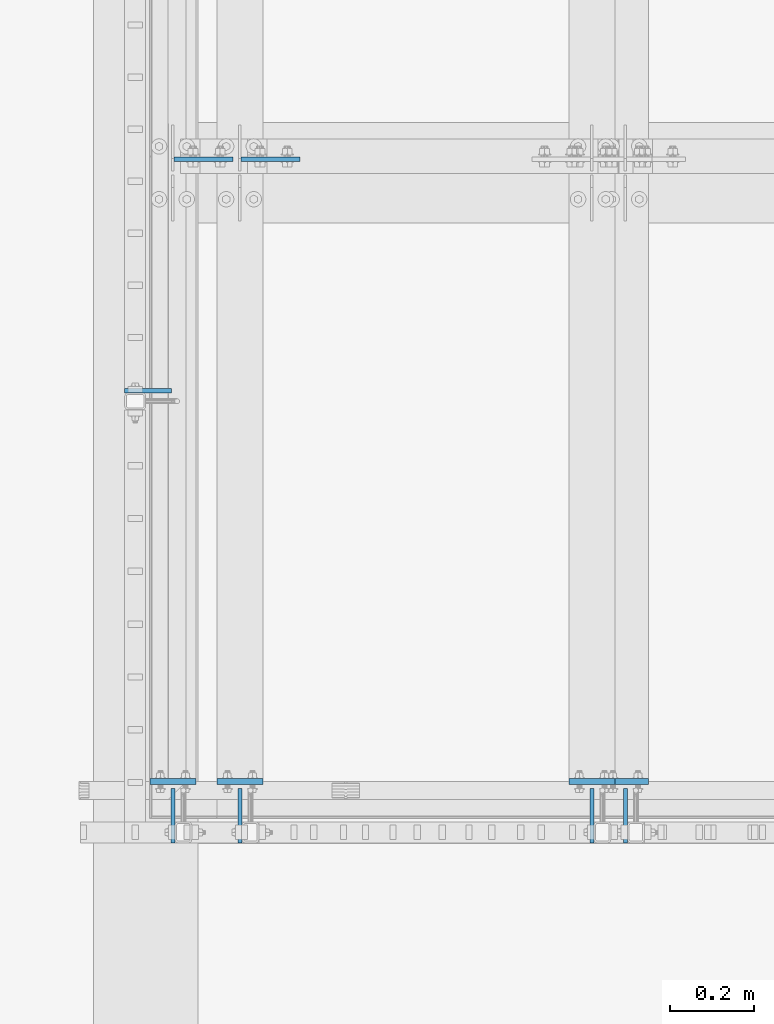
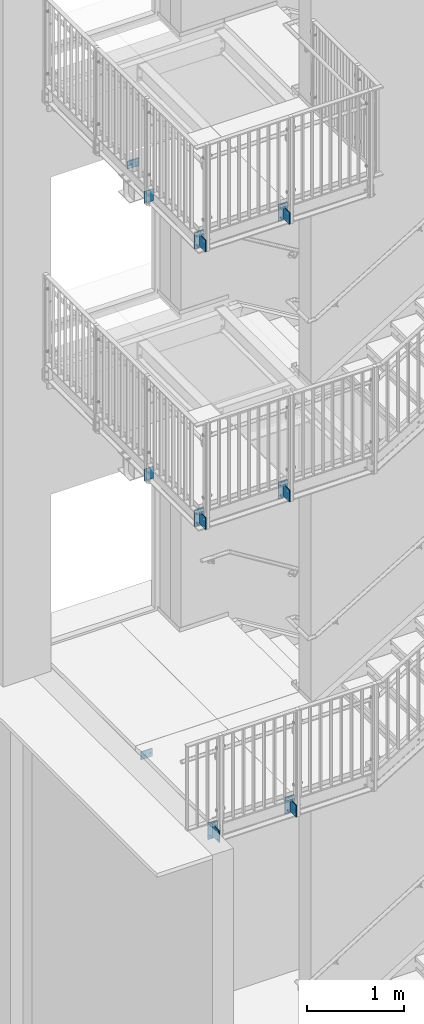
# One storey, part 50 of 410: 16 plates, 68 openings.
"""IFC2X3 building model written with IfcOpenShell, lengths in millimetres."""

from ifc_helpers import new_model, entity, si_unit, converted_unit, frame, frame_2d, origin, origin_with_axes, origin_2d_with_axis, place, context, project, spatial, polyline, circle, outline, extrude, material, layer, layer_set, element, save


model = new_model("IFC2X3")

# Units and contexts
model_context = context("Model", 3, precision=1e-09, world=origin_with_axes())
ifc_project = project(units=[si_unit("LENGTHUNIT", "METRE", prefix="MILLI"), si_unit("AREAUNIT", "SQUARE_METRE"), si_unit("VOLUMEUNIT", "CUBIC_METRE"), converted_unit("PLANEANGLEUNIT", "DEGREE", entity("IfcPlaneAngleMeasure", 0.01745329), si_unit("PLANEANGLEUNIT", "RADIAN"), dimensions=[0, 0, 0, 0, 0, 0, 0])], contexts=[model_context])

# Site, building, storey
site_placement = place(None, origin_with_axes())
site = spatial("IfcSite", under=ifc_project, at=site_placement, Name="mKR Teilneubau & Sanierung BA1 - Ostfildern", CompositionType="ELEMENT")
building_placement = place(site_placement, origin_with_axes())
building = spatial("IfcBuilding", under=site, at=building_placement, Name="Struktur 1", CompositionType="ELEMENT")
storey_placement = place(building_placement, origin_with_axes())
storey = spatial("IfcBuildingStorey", under=building, at=storey_placement, Name="Default Storey", CompositionType="ELEMENT", Elevation=0.0)

# Plate, openings
ifc_material = material(Name="S235JR")
ifc_layer_1 = layer(ifc_material, 15.0)
ifc_layer_set_1 = layer_set([ifc_layer_1], Name="S235JR")
plate_1_placement = place(None, frame((-3809.9985317, 15534.999999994, 3830.0), z_axis=(0.0, -1.0, 0.0), x_axis=(1.0, 0.0, 0.0)))
plate_1 = element("IfcPlate", 1, at=plate_1_placement, inside=storey, material=ifc_layer_set_1, Name="-", ObjectType="-", context=model_context, shape_type="SweptSolid", body=[
    extrude(outline(polyline([(-55.0, -105.0), (55.0, -105.0), (55.0, 105.0), (-55.0, 105.0), (-55.0, -105.0)])), origin_with_axes(), (0.0, 0.0, 1.0), 15.0),
])
opening_1_placement = place(plate_1_placement, frame((2.9e-08, 1.5e-08, -0.5), z_axis=(0.0, 0.0, 1.0), x_axis=(1.0, 0.0, 0.0)))
element("IfcOpeningElement", 2, at=opening_1_placement, cuts=plate_1, ObjectType="Opening", context=model_context, shape_type="SweptSolid", body=[
    extrude(circle(Radius=7.001, at=frame_2d((30.0, 60.0), x_axis=(1.0, 0.0))), origin(), (0.0, 0.0, 1.0), 16.0),
])
opening_2_placement = place(plate_1_placement, frame((2.9e-08, 1.5e-08, -0.5), z_axis=(0.0, 0.0, 1.0), x_axis=(1.0, 0.0, 0.0)))
element("IfcOpeningElement", 3, at=opening_2_placement, cuts=plate_1, ObjectType="Opening", context=model_context, shape_type="SweptSolid", body=[
    extrude(circle(Radius=7.001, at=frame_2d((-30.0, 60.0), x_axis=(1.0, 0.0))), origin(), (0.0, 0.0, 1.0), 16.0),
])
opening_3_placement = place(plate_1_placement, frame((2.9e-08, 1.5e-08, -0.5), z_axis=(0.0, 0.0, 1.0), x_axis=(1.0, 0.0, 0.0)))
element("IfcOpeningElement", 4, at=opening_3_placement, cuts=plate_1, ObjectType="Opening", context=model_context, shape_type="SweptSolid", body=[
    extrude(circle(Radius=7.001, at=frame_2d((30.0, -60.0), x_axis=(1.0, 0.0))), origin(), (0.0, 0.0, 1.0), 16.0),
])
opening_4_placement = place(plate_1_placement, frame((2.9e-08, 1.5e-08, -0.5), z_axis=(0.0, 0.0, 1.0), x_axis=(1.0, 0.0, 0.0)))
element("IfcOpeningElement", 5, at=opening_4_placement, cuts=plate_1, ObjectType="Opening", context=model_context, shape_type="SweptSolid", body=[
    extrude(circle(Radius=7.001, at=frame_2d((-30.0, -60.0), x_axis=(1.0, 0.0))), origin(), (0.0, 0.0, 1.0), 16.0),
])
opening_5_placement = place(plate_1_placement, frame((14.95, 88.8, 15.5), z_axis=(0.0, 0.0, -1.0), x_axis=(0.0, 1.0, 0.0)))
element("IfcOpeningElement", 6, at=opening_5_placement, cuts=plate_1, ObjectType="Opening", context=model_context, shape_type="SweptSolid", body=[
    extrude(circle(Radius=6.001, at=origin_2d_with_axis()), origin(), (0.0, 0.0, 1.0), 16.0),
])
opening_6_placement = place(plate_1_placement, frame((14.95, -88.8, 15.5), z_axis=(0.0, 0.0, -1.0), x_axis=(0.0, 1.0, 0.0)))
element("IfcOpeningElement", 7, at=opening_6_placement, cuts=plate_1, ObjectType="Opening", context=model_context, shape_type="SweptSolid", body=[
    extrude(circle(Radius=6.001, at=origin_2d_with_axis()), origin(), (0.0, 0.0, 1.0), 16.0),
])
opening_7_placement = place(plate_1_placement, frame((-14.95, -88.8, 15.5), z_axis=(0.0, 0.0, -1.0), x_axis=(0.0, 1.0, 0.0)))
element("IfcOpeningElement", 8, at=opening_7_placement, cuts=plate_1, ObjectType="Opening", context=model_context, shape_type="SweptSolid", body=[
    extrude(circle(Radius=6.001, at=origin_2d_with_axis()), origin(), (0.0, 0.0, 1.0), 16.0),
])
opening_8_placement = place(plate_1_placement, frame((-14.95, 88.8, 15.5), z_axis=(0.0, 0.0, -1.0), x_axis=(0.0, 1.0, 0.0)))
element("IfcOpeningElement", 9, at=opening_8_placement, cuts=plate_1, ObjectType="Opening", context=model_context, shape_type="SweptSolid", body=[
    extrude(circle(Radius=6.001, at=origin_2d_with_axis()), origin(), (0.0, 0.0, 1.0), 16.0),
])

plate_2_placement = place(None, frame((-3809.9985317, 15534.999999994, 7330.0), z_axis=(0.0, -1.0, 0.0), x_axis=(1.0, 0.0, 0.0)))
plate_2 = element("IfcPlate", 10, at=plate_2_placement, inside=storey, material=ifc_layer_set_1, Name="-", ObjectType="-", context=model_context, shape_type="SweptSolid", body=[
    extrude(outline(polyline([(-55.0, -105.0), (55.0, -105.0), (55.0, 105.0), (-55.0, 105.0), (-55.0, -105.0)])), origin_with_axes(), (0.0, 0.0, 1.0), 15.0),
])
opening_9_placement = place(plate_2_placement, frame((2.9e-08, 1.5e-08, -0.5), z_axis=(0.0, 0.0, 1.0), x_axis=(1.0, 0.0, 0.0)))
element("IfcOpeningElement", 11, at=opening_9_placement, cuts=plate_2, ObjectType="Opening", context=model_context, shape_type="SweptSolid", body=[
    extrude(circle(Radius=7.001, at=frame_2d((30.0, 60.0), x_axis=(1.0, 0.0))), origin(), (0.0, 0.0, 1.0), 16.0),
])
opening_10_placement = place(plate_2_placement, frame((2.9e-08, 1.5e-08, -0.5), z_axis=(0.0, 0.0, 1.0), x_axis=(1.0, 0.0, 0.0)))
element("IfcOpeningElement", 12, at=opening_10_placement, cuts=plate_2, ObjectType="Opening", context=model_context, shape_type="SweptSolid", body=[
    extrude(circle(Radius=7.001, at=frame_2d((-30.0, 60.0), x_axis=(1.0, 0.0))), origin(), (0.0, 0.0, 1.0), 16.0),
])
opening_11_placement = place(plate_2_placement, frame((2.9e-08, 1.5e-08, -0.5), z_axis=(0.0, 0.0, 1.0), x_axis=(1.0, 0.0, 0.0)))
element("IfcOpeningElement", 13, at=opening_11_placement, cuts=plate_2, ObjectType="Opening", context=model_context, shape_type="SweptSolid", body=[
    extrude(circle(Radius=7.001, at=frame_2d((30.0, -60.0), x_axis=(1.0, 0.0))), origin(), (0.0, 0.0, 1.0), 16.0),
])
opening_12_placement = place(plate_2_placement, frame((2.9e-08, 1.5e-08, -0.5), z_axis=(0.0, 0.0, 1.0), x_axis=(1.0, 0.0, 0.0)))
element("IfcOpeningElement", 14, at=opening_12_placement, cuts=plate_2, ObjectType="Opening", context=model_context, shape_type="SweptSolid", body=[
    extrude(circle(Radius=7.001, at=frame_2d((-30.0, -60.0), x_axis=(1.0, 0.0))), origin(), (0.0, 0.0, 1.0), 16.0),
])
opening_13_placement = place(plate_2_placement, frame((14.95, 88.8, 15.5), z_axis=(0.0, 0.0, -1.0), x_axis=(0.0, 1.0, 0.0)))
element("IfcOpeningElement", 15, at=opening_13_placement, cuts=plate_2, ObjectType="Opening", context=model_context, shape_type="SweptSolid", body=[
    extrude(circle(Radius=6.001, at=origin_2d_with_axis()), origin(), (0.0, 0.0, 1.0), 16.0),
])
opening_14_placement = place(plate_2_placement, frame((14.95, -88.8, 15.5), z_axis=(0.0, 0.0, -1.0), x_axis=(0.0, 1.0, 0.0)))
element("IfcOpeningElement", 16, at=opening_14_placement, cuts=plate_2, ObjectType="Opening", context=model_context, shape_type="SweptSolid", body=[
    extrude(circle(Radius=6.001, at=origin_2d_with_axis()), origin(), (0.0, 0.0, 1.0), 16.0),
])
opening_15_placement = place(plate_2_placement, frame((-14.95, -88.8, 15.5), z_axis=(0.0, 0.0, -1.0), x_axis=(0.0, 1.0, 0.0)))
element("IfcOpeningElement", 17, at=opening_15_placement, cuts=plate_2, ObjectType="Opening", context=model_context, shape_type="SweptSolid", body=[
    extrude(circle(Radius=6.001, at=origin_2d_with_axis()), origin(), (0.0, 0.0, 1.0), 16.0),
])
opening_16_placement = place(plate_2_placement, frame((-14.95, 88.8, 15.5), z_axis=(0.0, 0.0, -1.0), x_axis=(0.0, 1.0, 0.0)))
element("IfcOpeningElement", 18, at=opening_16_placement, cuts=plate_2, ObjectType="Opening", context=model_context, shape_type="SweptSolid", body=[
    extrude(circle(Radius=6.001, at=origin_2d_with_axis()), origin(), (0.0, 0.0, 1.0), 16.0),
])

plate_3_placement = place(None, frame((-3649.9985317, 15534.999999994, -170.0), z_axis=(0.0, -1.0, 0.0), x_axis=(1.0, 0.0, 0.0)))
plate_3 = element("IfcPlate", 19, at=plate_3_placement, inside=storey, material=ifc_layer_set_1, Name="-", ObjectType="-", context=model_context, shape_type="SweptSolid", body=[
    extrude(outline(polyline([(-55.0, -105.0), (55.0, -105.0), (55.0, 105.0), (-55.0, 105.0), (-55.0, -105.0)])), origin_with_axes(), (0.0, 0.0, 1.0), 15.0),
])
opening_17_placement = place(plate_3_placement, frame((2.9e-08, 1.5e-08, -0.5), z_axis=(0.0, 0.0, 1.0), x_axis=(1.0, 0.0, 0.0)))
element("IfcOpeningElement", 20, at=opening_17_placement, cuts=plate_3, ObjectType="Opening", context=model_context, shape_type="SweptSolid", body=[
    extrude(circle(Radius=7.001, at=frame_2d((30.0, 60.0), x_axis=(1.0, 0.0))), origin(), (0.0, 0.0, 1.0), 16.0),
])
opening_18_placement = place(plate_3_placement, frame((2.9e-08, 1.5e-08, -0.5), z_axis=(0.0, 0.0, 1.0), x_axis=(1.0, 0.0, 0.0)))
element("IfcOpeningElement", 21, at=opening_18_placement, cuts=plate_3, ObjectType="Opening", context=model_context, shape_type="SweptSolid", body=[
    extrude(circle(Radius=7.001, at=frame_2d((-30.0, 60.0), x_axis=(1.0, 0.0))), origin(), (0.0, 0.0, 1.0), 16.0),
])
opening_19_placement = place(plate_3_placement, frame((2.9e-08, 1.5e-08, -0.5), z_axis=(0.0, 0.0, 1.0), x_axis=(1.0, 0.0, 0.0)))
element("IfcOpeningElement", 22, at=opening_19_placement, cuts=plate_3, ObjectType="Opening", context=model_context, shape_type="SweptSolid", body=[
    extrude(circle(Radius=7.001, at=frame_2d((30.0, -60.0), x_axis=(1.0, 0.0))), origin(), (0.0, 0.0, 1.0), 16.0),
])
opening_20_placement = place(plate_3_placement, frame((2.9e-08, 1.5e-08, -0.5), z_axis=(0.0, 0.0, 1.0), x_axis=(1.0, 0.0, 0.0)))
element("IfcOpeningElement", 23, at=opening_20_placement, cuts=plate_3, ObjectType="Opening", context=model_context, shape_type="SweptSolid", body=[
    extrude(circle(Radius=7.001, at=frame_2d((-30.0, -60.0), x_axis=(1.0, 0.0))), origin(), (0.0, 0.0, 1.0), 16.0),
])
opening_21_placement = place(plate_3_placement, frame((14.95, 88.8, 15.5), z_axis=(0.0, 0.0, -1.0), x_axis=(0.0, 1.0, 0.0)))
element("IfcOpeningElement", 24, at=opening_21_placement, cuts=plate_3, ObjectType="Opening", context=model_context, shape_type="SweptSolid", body=[
    extrude(circle(Radius=6.001, at=origin_2d_with_axis()), origin(), (0.0, 0.0, 1.0), 16.0),
])
opening_22_placement = place(plate_3_placement, frame((14.95, -88.8, 15.5), z_axis=(0.0, 0.0, -1.0), x_axis=(0.0, 1.0, 0.0)))
element("IfcOpeningElement", 25, at=opening_22_placement, cuts=plate_3, ObjectType="Opening", context=model_context, shape_type="SweptSolid", body=[
    extrude(circle(Radius=6.001, at=origin_2d_with_axis()), origin(), (0.0, 0.0, 1.0), 16.0),
])
opening_23_placement = place(plate_3_placement, frame((-14.95, -88.8, 15.5), z_axis=(0.0, 0.0, -1.0), x_axis=(0.0, 1.0, 0.0)))
element("IfcOpeningElement", 26, at=opening_23_placement, cuts=plate_3, ObjectType="Opening", context=model_context, shape_type="SweptSolid", body=[
    extrude(circle(Radius=6.001, at=origin_2d_with_axis()), origin(), (0.0, 0.0, 1.0), 16.0),
])
opening_24_placement = place(plate_3_placement, frame((-14.95, 88.8, 15.5), z_axis=(0.0, 0.0, -1.0), x_axis=(0.0, 1.0, 0.0)))
element("IfcOpeningElement", 27, at=opening_24_placement, cuts=plate_3, ObjectType="Opening", context=model_context, shape_type="SweptSolid", body=[
    extrude(circle(Radius=6.001, at=origin_2d_with_axis()), origin(), (0.0, 0.0, 1.0), 16.0),
])

plate_4_placement = place(None, frame((-2809.9985317, 15534.999999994, 3830.0), z_axis=(0.0, -1.0, 0.0), x_axis=(1.0, 0.0, 0.0)))
plate_4 = element("IfcPlate", 28, at=plate_4_placement, inside=storey, material=ifc_layer_set_1, Name="-", ObjectType="-", context=model_context, shape_type="SweptSolid", body=[
    extrude(outline(polyline([(-55.0, -105.0), (55.0, -105.0), (55.0, 105.0), (-55.0, 105.0), (-55.0, -105.0)])), origin_with_axes(), (0.0, 0.0, 1.0), 15.0),
])
opening_25_placement = place(plate_4_placement, frame((2.9e-08, 1.5e-08, -0.5), z_axis=(0.0, 0.0, 1.0), x_axis=(1.0, 0.0, 0.0)))
element("IfcOpeningElement", 29, at=opening_25_placement, cuts=plate_4, ObjectType="Opening", context=model_context, shape_type="SweptSolid", body=[
    extrude(circle(Radius=7.001, at=frame_2d((30.0, 60.0), x_axis=(1.0, 0.0))), origin(), (0.0, 0.0, 1.0), 16.0),
])
opening_26_placement = place(plate_4_placement, frame((2.9e-08, 1.5e-08, -0.5), z_axis=(0.0, 0.0, 1.0), x_axis=(1.0, 0.0, 0.0)))
element("IfcOpeningElement", 30, at=opening_26_placement, cuts=plate_4, ObjectType="Opening", context=model_context, shape_type="SweptSolid", body=[
    extrude(circle(Radius=7.001, at=frame_2d((-30.0, 60.0), x_axis=(1.0, 0.0))), origin(), (0.0, 0.0, 1.0), 16.0),
])
opening_27_placement = place(plate_4_placement, frame((2.9e-08, 1.5e-08, -0.5), z_axis=(0.0, 0.0, 1.0), x_axis=(1.0, 0.0, 0.0)))
element("IfcOpeningElement", 31, at=opening_27_placement, cuts=plate_4, ObjectType="Opening", context=model_context, shape_type="SweptSolid", body=[
    extrude(circle(Radius=7.001, at=frame_2d((30.0, -60.0), x_axis=(1.0, 0.0))), origin(), (0.0, 0.0, 1.0), 16.0),
])
opening_28_placement = place(plate_4_placement, frame((2.9e-08, 1.5e-08, -0.5), z_axis=(0.0, 0.0, 1.0), x_axis=(1.0, 0.0, 0.0)))
element("IfcOpeningElement", 32, at=opening_28_placement, cuts=plate_4, ObjectType="Opening", context=model_context, shape_type="SweptSolid", body=[
    extrude(circle(Radius=7.001, at=frame_2d((-30.0, -60.0), x_axis=(1.0, 0.0))), origin(), (0.0, 0.0, 1.0), 16.0),
])
opening_29_placement = place(plate_4_placement, frame((14.95, 88.8, 15.5), z_axis=(0.0, 0.0, -1.0), x_axis=(0.0, 1.0, 0.0)))
element("IfcOpeningElement", 33, at=opening_29_placement, cuts=plate_4, ObjectType="Opening", context=model_context, shape_type="SweptSolid", body=[
    extrude(circle(Radius=6.001, at=origin_2d_with_axis()), origin(), (0.0, 0.0, 1.0), 16.0),
])
opening_30_placement = place(plate_4_placement, frame((14.95, -88.8, 15.5), z_axis=(0.0, 0.0, -1.0), x_axis=(0.0, 1.0, 0.0)))
element("IfcOpeningElement", 34, at=opening_30_placement, cuts=plate_4, ObjectType="Opening", context=model_context, shape_type="SweptSolid", body=[
    extrude(circle(Radius=6.001, at=origin_2d_with_axis()), origin(), (0.0, 0.0, 1.0), 16.0),
])
opening_31_placement = place(plate_4_placement, frame((-14.95, -88.8, 15.5), z_axis=(0.0, 0.0, -1.0), x_axis=(0.0, 1.0, 0.0)))
element("IfcOpeningElement", 35, at=opening_31_placement, cuts=plate_4, ObjectType="Opening", context=model_context, shape_type="SweptSolid", body=[
    extrude(circle(Radius=6.001, at=origin_2d_with_axis()), origin(), (0.0, 0.0, 1.0), 16.0),
])
opening_32_placement = place(plate_4_placement, frame((-14.95, 88.8, 15.5), z_axis=(0.0, 0.0, -1.0), x_axis=(0.0, 1.0, 0.0)))
element("IfcOpeningElement", 36, at=opening_32_placement, cuts=plate_4, ObjectType="Opening", context=model_context, shape_type="SweptSolid", body=[
    extrude(circle(Radius=6.001, at=origin_2d_with_axis()), origin(), (0.0, 0.0, 1.0), 16.0),
])

plate_5_placement = place(None, frame((-2809.9985317, 15534.999999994, 7330.0), z_axis=(0.0, -1.0, 0.0), x_axis=(1.0, 0.0, 0.0)))
plate_5 = element("IfcPlate", 37, at=plate_5_placement, inside=storey, material=ifc_layer_set_1, Name="-", ObjectType="-", context=model_context, shape_type="SweptSolid", body=[
    extrude(outline(polyline([(-55.0, -105.0), (55.0, -105.0), (55.0, 105.0), (-55.0, 105.0), (-55.0, -105.0)])), origin_with_axes(), (0.0, 0.0, 1.0), 15.0),
])
opening_33_placement = place(plate_5_placement, frame((2.9e-08, 1.5e-08, -0.5), z_axis=(0.0, 0.0, 1.0), x_axis=(1.0, 0.0, 0.0)))
element("IfcOpeningElement", 38, at=opening_33_placement, cuts=plate_5, ObjectType="Opening", context=model_context, shape_type="SweptSolid", body=[
    extrude(circle(Radius=7.001, at=frame_2d((30.0, 60.0), x_axis=(1.0, 0.0))), origin(), (0.0, 0.0, 1.0), 16.0),
])
opening_34_placement = place(plate_5_placement, frame((2.9e-08, 1.5e-08, -0.5), z_axis=(0.0, 0.0, 1.0), x_axis=(1.0, 0.0, 0.0)))
element("IfcOpeningElement", 39, at=opening_34_placement, cuts=plate_5, ObjectType="Opening", context=model_context, shape_type="SweptSolid", body=[
    extrude(circle(Radius=7.001, at=frame_2d((-30.0, 60.0), x_axis=(1.0, 0.0))), origin(), (0.0, 0.0, 1.0), 16.0),
])
opening_35_placement = place(plate_5_placement, frame((2.9e-08, 1.5e-08, -0.5), z_axis=(0.0, 0.0, 1.0), x_axis=(1.0, 0.0, 0.0)))
element("IfcOpeningElement", 40, at=opening_35_placement, cuts=plate_5, ObjectType="Opening", context=model_context, shape_type="SweptSolid", body=[
    extrude(circle(Radius=7.001, at=frame_2d((30.0, -60.0), x_axis=(1.0, 0.0))), origin(), (0.0, 0.0, 1.0), 16.0),
])
opening_36_placement = place(plate_5_placement, frame((2.9e-08, 1.5e-08, -0.5), z_axis=(0.0, 0.0, 1.0), x_axis=(1.0, 0.0, 0.0)))
element("IfcOpeningElement", 41, at=opening_36_placement, cuts=plate_5, ObjectType="Opening", context=model_context, shape_type="SweptSolid", body=[
    extrude(circle(Radius=7.001, at=frame_2d((-30.0, -60.0), x_axis=(1.0, 0.0))), origin(), (0.0, 0.0, 1.0), 16.0),
])
opening_37_placement = place(plate_5_placement, frame((14.95, 88.8, 15.5), z_axis=(0.0, 0.0, -1.0), x_axis=(0.0, 1.0, 0.0)))
element("IfcOpeningElement", 42, at=opening_37_placement, cuts=plate_5, ObjectType="Opening", context=model_context, shape_type="SweptSolid", body=[
    extrude(circle(Radius=6.001, at=origin_2d_with_axis()), origin(), (0.0, 0.0, 1.0), 16.0),
])
opening_38_placement = place(plate_5_placement, frame((14.95, -88.8, 15.5), z_axis=(0.0, 0.0, -1.0), x_axis=(0.0, 1.0, 0.0)))
element("IfcOpeningElement", 43, at=opening_38_placement, cuts=plate_5, ObjectType="Opening", context=model_context, shape_type="SweptSolid", body=[
    extrude(circle(Radius=6.001, at=origin_2d_with_axis()), origin(), (0.0, 0.0, 1.0), 16.0),
])
opening_39_placement = place(plate_5_placement, frame((-14.95, -88.8, 15.5), z_axis=(0.0, 0.0, -1.0), x_axis=(0.0, 1.0, 0.0)))
element("IfcOpeningElement", 44, at=opening_39_placement, cuts=plate_5, ObjectType="Opening", context=model_context, shape_type="SweptSolid", body=[
    extrude(circle(Radius=6.001, at=origin_2d_with_axis()), origin(), (0.0, 0.0, 1.0), 16.0),
])
opening_40_placement = place(plate_5_placement, frame((-14.95, 88.8, 15.5), z_axis=(0.0, 0.0, -1.0), x_axis=(0.0, 1.0, 0.0)))
element("IfcOpeningElement", 45, at=opening_40_placement, cuts=plate_5, ObjectType="Opening", context=model_context, shape_type="SweptSolid", body=[
    extrude(circle(Radius=6.001, at=origin_2d_with_axis()), origin(), (0.0, 0.0, 1.0), 16.0),
])

plate_6_placement = place(None, frame((-2729.9985317, 15534.999999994, -170.0), z_axis=(0.0, -1.0, 0.0), x_axis=(1.0, 0.0, 0.0)))
plate_6 = element("IfcPlate", 46, at=plate_6_placement, inside=storey, material=ifc_layer_set_1, Name="-", ObjectType="-", context=model_context, shape_type="SweptSolid", body=[
    extrude(outline(polyline([(-55.0, -105.0), (55.0, -105.0), (55.0, 105.0), (-55.0, 105.0), (-55.0, -105.0)])), origin_with_axes(), (0.0, 0.0, 1.0), 15.0),
])
opening_41_placement = place(plate_6_placement, frame((2.9e-08, 1.5e-08, -0.5), z_axis=(0.0, 0.0, 1.0), x_axis=(1.0, 0.0, 0.0)))
element("IfcOpeningElement", 47, at=opening_41_placement, cuts=plate_6, ObjectType="Opening", context=model_context, shape_type="SweptSolid", body=[
    extrude(circle(Radius=7.001, at=frame_2d((30.0, 60.0), x_axis=(1.0, 0.0))), origin(), (0.0, 0.0, 1.0), 16.0),
])
opening_42_placement = place(plate_6_placement, frame((2.9e-08, 1.5e-08, -0.5), z_axis=(0.0, 0.0, 1.0), x_axis=(1.0, 0.0, 0.0)))
element("IfcOpeningElement", 48, at=opening_42_placement, cuts=plate_6, ObjectType="Opening", context=model_context, shape_type="SweptSolid", body=[
    extrude(circle(Radius=7.001, at=frame_2d((-30.0, 60.0), x_axis=(1.0, 0.0))), origin(), (0.0, 0.0, 1.0), 16.0),
])
opening_43_placement = place(plate_6_placement, frame((2.9e-08, 1.5e-08, -0.5), z_axis=(0.0, 0.0, 1.0), x_axis=(1.0, 0.0, 0.0)))
element("IfcOpeningElement", 49, at=opening_43_placement, cuts=plate_6, ObjectType="Opening", context=model_context, shape_type="SweptSolid", body=[
    extrude(circle(Radius=7.001, at=frame_2d((30.0, -60.0), x_axis=(1.0, 0.0))), origin(), (0.0, 0.0, 1.0), 16.0),
])
opening_44_placement = place(plate_6_placement, frame((2.9e-08, 1.5e-08, -0.5), z_axis=(0.0, 0.0, 1.0), x_axis=(1.0, 0.0, 0.0)))
element("IfcOpeningElement", 50, at=opening_44_placement, cuts=plate_6, ObjectType="Opening", context=model_context, shape_type="SweptSolid", body=[
    extrude(circle(Radius=7.001, at=frame_2d((-30.0, -60.0), x_axis=(1.0, 0.0))), origin(), (0.0, 0.0, 1.0), 16.0),
])
opening_45_placement = place(plate_6_placement, frame((14.95, 88.8, 15.5), z_axis=(0.0, 0.0, -1.0), x_axis=(0.0, 1.0, 0.0)))
element("IfcOpeningElement", 51, at=opening_45_placement, cuts=plate_6, ObjectType="Opening", context=model_context, shape_type="SweptSolid", body=[
    extrude(circle(Radius=6.001, at=origin_2d_with_axis()), origin(), (0.0, 0.0, 1.0), 16.0),
])
opening_46_placement = place(plate_6_placement, frame((14.95, -88.8, 15.5), z_axis=(0.0, 0.0, -1.0), x_axis=(0.0, 1.0, 0.0)))
element("IfcOpeningElement", 52, at=opening_46_placement, cuts=plate_6, ObjectType="Opening", context=model_context, shape_type="SweptSolid", body=[
    extrude(circle(Radius=6.001, at=origin_2d_with_axis()), origin(), (0.0, 0.0, 1.0), 16.0),
])
opening_47_placement = place(plate_6_placement, frame((-14.95, -88.8, 15.5), z_axis=(0.0, 0.0, -1.0), x_axis=(0.0, 1.0, 0.0)))
element("IfcOpeningElement", 53, at=opening_47_placement, cuts=plate_6, ObjectType="Opening", context=model_context, shape_type="SweptSolid", body=[
    extrude(circle(Radius=6.001, at=origin_2d_with_axis()), origin(), (0.0, 0.0, 1.0), 16.0),
])
opening_48_placement = place(plate_6_placement, frame((-14.95, 88.8, 15.5), z_axis=(0.0, 0.0, -1.0), x_axis=(0.0, 1.0, 0.0)))
element("IfcOpeningElement", 54, at=opening_48_placement, cuts=plate_6, ObjectType="Opening", context=model_context, shape_type="SweptSolid", body=[
    extrude(circle(Radius=6.001, at=origin_2d_with_axis()), origin(), (0.0, 0.0, 1.0), 16.0),
])

ifc_layer_2 = layer(ifc_material, 10.0)
ifc_layer_set_2 = layer_set([ifc_layer_2], Name="S235JR")
plate_7_placement = place(None, frame((-3737.0485317, 17017.5, 7360.0), z_axis=(0.0, -1.0, 0.0), x_axis=(1.0, 0.0, 0.0)))
plate_7 = element("IfcPlate", 55, at=plate_7_placement, inside=storey, material=ifc_layer_set_2, Name="-", ObjectType="-", context=model_context, shape_type="SweptSolid", body=[
    extrude(outline(polyline([(-70.0, -50.0), (70.0, -50.0), (70.0, 50.0), (-70.0, 50.0), (-70.0, -50.0)])), origin_with_axes(), (0.0, 0.0, 1.0), 10.0),
])
opening_49_placement = place(plate_7_placement, frame((7.5, 0.0, -0.5), z_axis=(0.0, 0.0, 1.0), x_axis=(1.0, 0.0, 0.0)))
element("IfcOpeningElement", 56, at=opening_49_placement, cuts=plate_7, ObjectType="Opening", context=model_context, shape_type="SweptSolid", body=[
    extrude(circle(Radius=9.001, at=frame_2d((32.5, 0.0), x_axis=(1.0, 0.0))), origin(), (0.0, 0.0, 1.0), 11.0),
])
opening_50_placement = place(plate_7_placement, frame((7.5, 0.0, -0.5), z_axis=(0.0, 0.0, 1.0), x_axis=(1.0, 0.0, 0.0)))
element("IfcOpeningElement", 57, at=opening_50_placement, cuts=plate_7, ObjectType="Opening", context=model_context, shape_type="SweptSolid", body=[
    extrude(circle(Radius=9.001, at=frame_2d((-32.5, 0.0), x_axis=(1.0, 0.0))), origin(), (0.0, 0.0, 1.0), 11.0),
])

plate_8_placement = place(None, frame((-3577.0485317, 17017.5, -140.0), z_axis=(0.0, -1.0, 0.0), x_axis=(1.0, 0.0, 0.0)))
plate_8 = element("IfcPlate", 58, at=plate_8_placement, inside=storey, material=ifc_layer_set_2, Name="-", ObjectType="-", context=model_context, shape_type="SweptSolid", body=[
    extrude(outline(polyline([(-70.0, -50.0), (70.0, -50.0), (70.0, 50.0), (-70.0, 50.0), (-70.0, -50.0)])), origin_with_axes(), (0.0, 0.0, 1.0), 10.0),
])
opening_51_placement = place(plate_8_placement, frame((7.5, 0.0, -0.5), z_axis=(0.0, 0.0, 1.0), x_axis=(1.0, 0.0, 0.0)))
element("IfcOpeningElement", 59, at=opening_51_placement, cuts=plate_8, ObjectType="Opening", context=model_context, shape_type="SweptSolid", body=[
    extrude(circle(Radius=9.001, at=frame_2d((32.5, 0.0), x_axis=(1.0, 0.0))), origin(), (0.0, 0.0, 1.0), 11.0),
])
opening_52_placement = place(plate_8_placement, frame((7.5, 0.0, -0.5), z_axis=(0.0, 0.0, 1.0), x_axis=(1.0, 0.0, 0.0)))
element("IfcOpeningElement", 60, at=opening_52_placement, cuts=plate_8, ObjectType="Opening", context=model_context, shape_type="SweptSolid", body=[
    extrude(circle(Radius=9.001, at=frame_2d((-32.5, 0.0), x_axis=(1.0, 0.0))), origin(), (0.0, 0.0, 1.0), 11.0),
])

plate_9_placement = place(None, frame((-2804.99853167, 15445.999999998, 3830.0), z_axis=(-1.0, 0.0, 0.0), x_axis=(0.0, -1.0, 0.0)))
plate_9 = element("IfcPlate", 61, at=plate_9_placement, inside=storey, material=ifc_layer_set_2, Name="-", ObjectType="-", context=model_context, shape_type="SweptSolid", body=[
    extrude(outline(polyline([(-65.0, -75.0), (65.0, -75.0), (65.0, 75.0), (-65.0, 75.0), (-65.0, -75.0)])), origin_with_axes(), (0.0, 0.0, 1.0), 10.0),
])
opening_53_placement = place(plate_9_placement, frame((40.0, 0.0, -0.5), z_axis=(0.0, 0.0, 1.0), x_axis=(1.0, 0.0, 0.0)))
element("IfcOpeningElement", 62, at=opening_53_placement, cuts=plate_9, ObjectType="Opening", context=model_context, shape_type="SweptSolid", body=[
    extrude(circle(Radius=7.001, at=frame_2d((0.0, 50.0), x_axis=(1.0, 0.0))), origin(), (0.0, 0.0, 1.0), 11.0),
])
opening_54_placement = place(plate_9_placement, frame((40.0, 0.0, -0.5), z_axis=(0.0, 0.0, 1.0), x_axis=(1.0, 0.0, 0.0)))
element("IfcOpeningElement", 63, at=opening_54_placement, cuts=plate_9, ObjectType="Opening", context=model_context, shape_type="SweptSolid", body=[
    extrude(circle(Radius=7.001, at=frame_2d((0.0, -50.0), x_axis=(1.0, 0.0))), origin(), (0.0, 0.0, 1.0), 11.0),
])

plate_10_placement = place(None, frame((-2724.99853167, 15445.999999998, -170.0), z_axis=(-1.0, 0.0, 0.0), x_axis=(0.0, -1.0, 0.0)))
plate_10 = element("IfcPlate", 64, at=plate_10_placement, inside=storey, material=ifc_layer_set_2, Name="-", ObjectType="-", context=model_context, shape_type="SweptSolid", body=[
    extrude(outline(polyline([(-65.0, -75.0), (65.0, -75.0), (65.0, 75.0), (-65.0, 75.0), (-65.0, -75.0)])), origin_with_axes(), (0.0, 0.0, 1.0), 10.0),
])
opening_55_placement = place(plate_10_placement, frame((40.0, 0.0, -0.5), z_axis=(0.0, 0.0, 1.0), x_axis=(1.0, 0.0, 0.0)))
element("IfcOpeningElement", 65, at=opening_55_placement, cuts=plate_10, ObjectType="Opening", context=model_context, shape_type="SweptSolid", body=[
    extrude(circle(Radius=7.001, at=frame_2d((0.0, 50.0), x_axis=(1.0, 0.0))), origin(), (0.0, 0.0, 1.0), 11.0),
])
opening_56_placement = place(plate_10_placement, frame((40.0, 0.0, -0.5), z_axis=(0.0, 0.0, 1.0), x_axis=(1.0, 0.0, 0.0)))
element("IfcOpeningElement", 66, at=opening_56_placement, cuts=plate_10, ObjectType="Opening", context=model_context, shape_type="SweptSolid", body=[
    extrude(circle(Radius=7.001, at=frame_2d((0.0, -50.0), x_axis=(1.0, 0.0))), origin(), (0.0, 0.0, 1.0), 11.0),
])

plate_11_placement = place(None, frame((-3644.99853167, 15445.999999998, -170.0), z_axis=(-1.0, 0.0, 0.0), x_axis=(0.0, -1.0, 0.0)))
plate_11 = element("IfcPlate", 67, at=plate_11_placement, inside=storey, material=ifc_layer_set_2, Name="-", ObjectType="-", context=model_context, shape_type="SweptSolid", body=[
    extrude(outline(polyline([(-65.0, -75.0), (65.0, -75.0), (65.0, 75.0), (-65.0, 75.0), (-65.0, -75.0)])), origin_with_axes(), (0.0, 0.0, 1.0), 10.0),
])
opening_57_placement = place(plate_11_placement, frame((40.0, 0.0, -0.5), z_axis=(0.0, 0.0, 1.0), x_axis=(1.0, 0.0, 0.0)))
element("IfcOpeningElement", 68, at=opening_57_placement, cuts=plate_11, ObjectType="Opening", context=model_context, shape_type="SweptSolid", body=[
    extrude(circle(Radius=7.001, at=frame_2d((0.0, 50.0), x_axis=(1.0, 0.0))), origin(), (0.0, 0.0, 1.0), 11.0),
])
opening_58_placement = place(plate_11_placement, frame((40.0, 0.0, -0.5), z_axis=(0.0, 0.0, 1.0), x_axis=(1.0, 0.0, 0.0)))
element("IfcOpeningElement", 69, at=opening_58_placement, cuts=plate_11, ObjectType="Opening", context=model_context, shape_type="SweptSolid", body=[
    extrude(circle(Radius=7.001, at=frame_2d((0.0, -50.0), x_axis=(1.0, 0.0))), origin(), (0.0, 0.0, 1.0), 11.0),
])

plate_12_placement = place(None, frame((-2804.99853167, 15445.999999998, 7330.0), z_axis=(-1.0, 0.0, 0.0), x_axis=(0.0, -1.0, 0.0)))
plate_12 = element("IfcPlate", 70, at=plate_12_placement, inside=storey, material=ifc_layer_set_2, Name="-", ObjectType="-", context=model_context, shape_type="SweptSolid", body=[
    extrude(outline(polyline([(-65.0, -75.0), (65.0, -75.0), (65.0, 75.0), (-65.0, 75.0), (-65.0, -75.0)])), origin_with_axes(), (0.0, 0.0, 1.0), 10.0),
])
opening_59_placement = place(plate_12_placement, frame((40.0, 0.0, -0.5), z_axis=(0.0, 0.0, 1.0), x_axis=(1.0, 0.0, 0.0)))
element("IfcOpeningElement", 71, at=opening_59_placement, cuts=plate_12, ObjectType="Opening", context=model_context, shape_type="SweptSolid", body=[
    extrude(circle(Radius=7.001, at=frame_2d((0.0, 50.0), x_axis=(1.0, 0.0))), origin(), (0.0, 0.0, 1.0), 11.0),
])
opening_60_placement = place(plate_12_placement, frame((40.0, 0.0, -0.5), z_axis=(0.0, 0.0, 1.0), x_axis=(1.0, 0.0, 0.0)))
element("IfcOpeningElement", 72, at=opening_60_placement, cuts=plate_12, ObjectType="Opening", context=model_context, shape_type="SweptSolid", body=[
    extrude(circle(Radius=7.001, at=frame_2d((0.0, -50.0), x_axis=(1.0, 0.0))), origin(), (0.0, 0.0, 1.0), 11.0),
])

plate_13_placement = place(None, frame((-3804.99853167, 15445.999999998, 7330.0), z_axis=(-1.0, 0.0, 0.0), x_axis=(0.0, -1.0, 0.0)))
plate_13 = element("IfcPlate", 73, at=plate_13_placement, inside=storey, material=ifc_layer_set_2, Name="-", ObjectType="-", context=model_context, shape_type="SweptSolid", body=[
    extrude(outline(polyline([(-65.0, -75.0), (65.0, -75.0), (65.0, 75.0), (-65.0, 75.0), (-65.0, -75.0)])), origin_with_axes(), (0.0, 0.0, 1.0), 10.0),
])
opening_61_placement = place(plate_13_placement, frame((40.0, 0.0, -0.5), z_axis=(0.0, 0.0, 1.0), x_axis=(1.0, 0.0, 0.0)))
element("IfcOpeningElement", 74, at=opening_61_placement, cuts=plate_13, ObjectType="Opening", context=model_context, shape_type="SweptSolid", body=[
    extrude(circle(Radius=7.001, at=frame_2d((0.0, 50.0), x_axis=(1.0, 0.0))), origin(), (0.0, 0.0, 1.0), 11.0),
])
opening_62_placement = place(plate_13_placement, frame((40.0, 0.0, -0.5), z_axis=(0.0, 0.0, 1.0), x_axis=(1.0, 0.0, 0.0)))
element("IfcOpeningElement", 75, at=opening_62_placement, cuts=plate_13, ObjectType="Opening", context=model_context, shape_type="SweptSolid", body=[
    extrude(circle(Radius=7.001, at=frame_2d((0.0, -50.0), x_axis=(1.0, 0.0))), origin(), (0.0, 0.0, 1.0), 11.0),
])

plate_14_placement = place(None, frame((-3868.9485317, 16454.999999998, 3830.0), z_axis=(0.0, 1.0, 0.0), x_axis=(-1.0, 0.0, 0.0)))
plate_14 = element("IfcPlate", 76, at=plate_14_placement, inside=storey, material=ifc_layer_set_2, Name="-", ObjectType="-", context=model_context, shape_type="SweptSolid", body=[
    extrude(outline(polyline([(-56.0, -75.0), (56.0, -75.0), (56.0, 75.0), (-56.0, 75.0), (-56.0, -75.0)])), origin_with_axes(), (0.0, 0.0, 1.0), 10.0),
])
opening_63_placement = place(plate_14_placement, frame((31.0, 0.0, -0.5), z_axis=(0.0, 0.0, 1.0), x_axis=(1.0, 0.0, 0.0)))
element("IfcOpeningElement", 77, at=opening_63_placement, cuts=plate_14, ObjectType="Opening", context=model_context, shape_type="SweptSolid", body=[
    extrude(circle(Radius=7.001, at=frame_2d((0.0, 50.0), x_axis=(1.0, 0.0))), origin(), (0.0, 0.0, 1.0), 11.0),
])
opening_64_placement = place(plate_14_placement, frame((31.0, 0.0, -0.5), z_axis=(0.0, 0.0, 1.0), x_axis=(1.0, 0.0, 0.0)))
element("IfcOpeningElement", 78, at=opening_64_placement, cuts=plate_14, ObjectType="Opening", context=model_context, shape_type="SweptSolid", body=[
    extrude(circle(Radius=7.001, at=frame_2d((0.0, -50.0), x_axis=(1.0, 0.0))), origin(), (0.0, 0.0, 1.0), 11.0),
])

plate_15_placement = place(None, frame((-3868.9485317, 16454.999999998, 7330.0), z_axis=(0.0, 1.0, 0.0), x_axis=(-1.0, 0.0, 0.0)))
plate_15 = element("IfcPlate", 79, at=plate_15_placement, inside=storey, material=ifc_layer_set_2, Name="-", ObjectType="-", context=model_context, shape_type="SweptSolid", body=[
    extrude(outline(polyline([(-56.0, -75.0), (56.0, -75.0), (56.0, 75.0), (-56.0, 75.0), (-56.0, -75.0)])), origin_with_axes(), (0.0, 0.0, 1.0), 10.0),
])
opening_65_placement = place(plate_15_placement, frame((31.0, 0.0, -0.5), z_axis=(0.0, 0.0, 1.0), x_axis=(1.0, 0.0, 0.0)))
element("IfcOpeningElement", 80, at=opening_65_placement, cuts=plate_15, ObjectType="Opening", context=model_context, shape_type="SweptSolid", body=[
    extrude(circle(Radius=7.001, at=frame_2d((0.0, 50.0), x_axis=(1.0, 0.0))), origin(), (0.0, 0.0, 1.0), 11.0),
])
opening_66_placement = place(plate_15_placement, frame((31.0, 0.0, -0.5), z_axis=(0.0, 0.0, 1.0), x_axis=(1.0, 0.0, 0.0)))
element("IfcOpeningElement", 81, at=opening_66_placement, cuts=plate_15, ObjectType="Opening", context=model_context, shape_type="SweptSolid", body=[
    extrude(circle(Radius=7.001, at=frame_2d((0.0, -50.0), x_axis=(1.0, 0.0))), origin(), (0.0, 0.0, 1.0), 11.0),
])

plate_16_placement = place(None, frame((-3804.99853167, 15445.999999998, 3830.0), z_axis=(-1.0, 0.0, 0.0), x_axis=(0.0, -1.0, 0.0)))
plate_16 = element("IfcPlate", 82, at=plate_16_placement, inside=storey, material=ifc_layer_set_2, Name="-", ObjectType="-", context=model_context, shape_type="SweptSolid", body=[
    extrude(outline(polyline([(-65.0, -75.0), (65.0, -75.0), (65.0, 75.0), (-65.0, 75.0), (-65.0, -75.0)])), origin_with_axes(), (0.0, 0.0, 1.0), 10.0),
])
opening_67_placement = place(plate_16_placement, frame((40.0, 0.0, -0.5), z_axis=(0.0, 0.0, 1.0), x_axis=(1.0, 0.0, 0.0)))
element("IfcOpeningElement", 83, at=opening_67_placement, cuts=plate_16, ObjectType="Opening", context=model_context, shape_type="SweptSolid", body=[
    extrude(circle(Radius=7.001, at=frame_2d((0.0, 50.0), x_axis=(1.0, 0.0))), origin(), (0.0, 0.0, 1.0), 11.0),
])
opening_68_placement = place(plate_16_placement, frame((40.0, 0.0, -0.5), z_axis=(0.0, 0.0, 1.0), x_axis=(1.0, 0.0, 0.0)))
element("IfcOpeningElement", 84, at=opening_68_placement, cuts=plate_16, ObjectType="Opening", context=model_context, shape_type="SweptSolid", body=[
    extrude(circle(Radius=7.001, at=frame_2d((0.0, -50.0), x_axis=(1.0, 0.0))), origin(), (0.0, 0.0, 1.0), 11.0),
])

save(model, "model.ifc")
